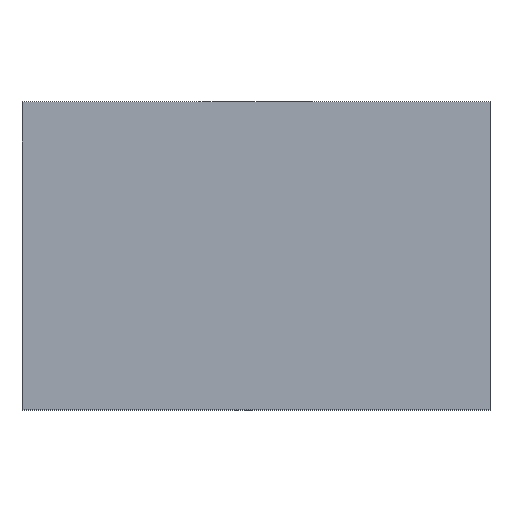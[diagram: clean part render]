
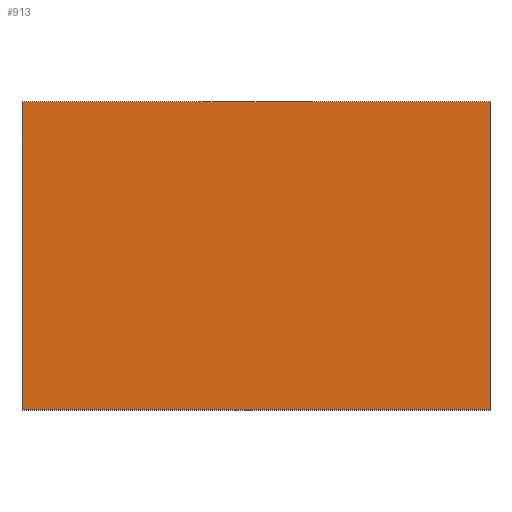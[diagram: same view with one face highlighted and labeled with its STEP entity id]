
A CAD part, top view. The second image highlights one B-rep face of the part: STEP entity #913.
In plain terms, the highlighted planar face has unit normal (0, 0, 1).
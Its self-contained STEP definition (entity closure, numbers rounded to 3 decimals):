
#18 = VERTEX_POINT ( 'NONE', #758 ) ;
#43 = CARTESIAN_POINT ( 'NONE',  ( 19., 12.5, 7.75 ) ) ;
#106 = ORIENTED_EDGE ( 'NONE', *, *, #1145, .T. ) ;
#120 = LINE ( 'NONE', #43, #167 ) ;
#158 = CARTESIAN_POINT ( 'NONE',  ( -19., -12.5, 7.75 ) ) ;
#165 = VECTOR ( 'NONE', #510, 1000. ) ;
#167 = VECTOR ( 'NONE', #201, 1000. ) ;
#201 = DIRECTION ( 'NONE',  ( 0., 1., 0. ) ) ;
#205 = AXIS2_PLACEMENT_3D ( 'NONE', #425, #796, #776 ) ;
#214 = ORIENTED_EDGE ( 'NONE', *, *, #532, .T. ) ;
#266 = EDGE_LOOP ( 'NONE', ( #605, #214, #717, #106 ) ) ;
#268 = CARTESIAN_POINT ( 'NONE',  ( 19., 12.5, 7.75 ) ) ;
#298 = VECTOR ( 'NONE', #969, 1000. ) ;
#326 = LINE ( 'NONE', #1067, #165 ) ;
#328 = FACE_OUTER_BOUND ( 'NONE', #266, .T. ) ;
#366 = CARTESIAN_POINT ( 'NONE',  ( -19., 12.5, 7.75 ) ) ;
#425 = CARTESIAN_POINT ( 'NONE',  ( 0., 0., 7.75 ) ) ;
#470 = EDGE_CURVE ( 'NONE', #557, #713, #326, .T. ) ;
#510 = DIRECTION ( 'NONE',  ( 0., -1., 0. ) ) ;
#530 = CARTESIAN_POINT ( 'NONE',  ( -19., 12.5, 7.75 ) ) ;
#532 = EDGE_CURVE ( 'NONE', #713, #18, #691, .T. ) ;
#557 = VERTEX_POINT ( 'NONE', #366 ) ;
#581 = CARTESIAN_POINT ( 'NONE',  ( -19., -12.5, 7.75 ) ) ;
#598 = PLANE ( 'NONE',  #205 ) ;
#605 = ORIENTED_EDGE ( 'NONE', *, *, #470, .T. ) ;
#624 = VERTEX_POINT ( 'NONE', #268 ) ;
#691 = LINE ( 'NONE', #158, #747 ) ;
#697 = LINE ( 'NONE', #530, #298 ) ;
#713 = VERTEX_POINT ( 'NONE', #581 ) ;
#717 = ORIENTED_EDGE ( 'NONE', *, *, #761, .T. ) ;
#747 = VECTOR ( 'NONE', #1170, 1000. ) ;
#758 = CARTESIAN_POINT ( 'NONE',  ( 19., -12.5, 7.75 ) ) ;
#761 = EDGE_CURVE ( 'NONE', #18, #624, #120, .T. ) ;
#776 = DIRECTION ( 'NONE',  ( 1., 0., 0. ) ) ;
#796 = DIRECTION ( 'NONE',  ( 0., 0., 1. ) ) ;
#913 = ADVANCED_FACE ( 'NONE', ( #328 ), #598, .T. ) ;
#969 = DIRECTION ( 'NONE',  ( -1., 0., 0. ) ) ;
#1067 = CARTESIAN_POINT ( 'NONE',  ( -19., 12.5, 7.75 ) ) ;
#1145 = EDGE_CURVE ( 'NONE', #624, #557, #697, .T. ) ;
#1170 = DIRECTION ( 'NONE',  ( 1., 0., 0. ) ) ;
